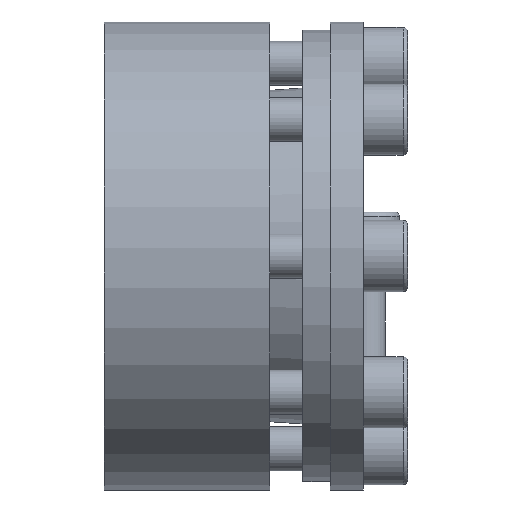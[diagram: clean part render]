
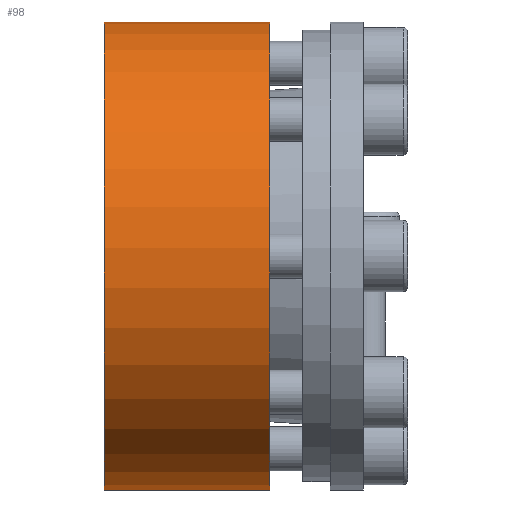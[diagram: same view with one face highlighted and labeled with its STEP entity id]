
A CAD part, left-side view. The second image highlights one B-rep face of the part: STEP entity #98.
In plain terms, the highlighted cylindrical face has radius 42.5 mm (diameter 85 mm), a partial arc.
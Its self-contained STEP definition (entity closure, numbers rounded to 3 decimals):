
#98 = ADVANCED_FACE( '', ( #225 ), #226, .T. );
#225 = FACE_OUTER_BOUND( '', #393, .T. );
#226 = CYLINDRICAL_SURFACE( '', #394, 42.5 );
#393 = EDGE_LOOP( '', ( #636, #637, #638, #639 ) );
#394 = AXIS2_PLACEMENT_3D( '', #640, #641, #642 );
#636 = ORIENTED_EDGE( '', *, *, #899, .F. );
#637 = ORIENTED_EDGE( '', *, *, #872, .T. );
#638 = ORIENTED_EDGE( '', *, *, #902, .T. );
#639 = ORIENTED_EDGE( '', *, *, #903, .T. );
#640 = CARTESIAN_POINT( '', ( 0., -60., 0. ) );
#641 = DIRECTION( '', ( 0., 1., 0. ) );
#642 = DIRECTION( '', ( 0., 0., -1. ) );
#872 = EDGE_CURVE( '', #1057, #1055, #1058, .F. );
#899 = EDGE_CURVE( '', #1057, #1102, #1103, .T. );
#902 = EDGE_CURVE( '', #1055, #1106, #1107, .T. );
#903 = EDGE_CURVE( '', #1106, #1102, #1108, .T. );
#1055 = VERTEX_POINT( '', #1365 );
#1057 = VERTEX_POINT( '', #1368 );
#1058 = LINE( '', #1369, #1370 );
#1102 = VERTEX_POINT( '', #1423 );
#1103 = CIRCLE( '', #1424, 42.5 );
#1106 = VERTEX_POINT( '', #1428 );
#1107 = CIRCLE( '', #1429, 42.5 );
#1108 = LINE( '', #1430, #1431 );
#1365 = CARTESIAN_POINT( '', ( 15.475, 47., 39.582 ) );
#1368 = CARTESIAN_POINT( '', ( 15.475, 17., 39.582 ) );
#1369 = CARTESIAN_POINT( '', ( 15.475, -60., 39.582 ) );
#1370 = VECTOR( '', #1580, 1000. );
#1423 = CARTESIAN_POINT( '', ( 17.046, 17., 38.932 ) );
#1424 = AXIS2_PLACEMENT_3D( '', #1626, #1627, #1628 );
#1428 = CARTESIAN_POINT( '', ( 17.046, 47., 38.932 ) );
#1429 = AXIS2_PLACEMENT_3D( '', #1630, #1631, #1632 );
#1430 = CARTESIAN_POINT( '', ( 17.046, -60., 38.932 ) );
#1431 = VECTOR( '', #1633, 1000. );
#1580 = DIRECTION( '', ( 0., -1., 0. ) );
#1626 = CARTESIAN_POINT( '', ( 0., 17., 0. ) );
#1627 = DIRECTION( '', ( 0., -1., 0. ) );
#1628 = DIRECTION( '', ( 0., 0., -1. ) );
#1630 = CARTESIAN_POINT( '', ( 0., 47., 0. ) );
#1631 = DIRECTION( '', ( 0., -1., 0. ) );
#1632 = DIRECTION( '', ( 0., 0., -1. ) );
#1633 = DIRECTION( '', ( 0., -1., 0. ) );
